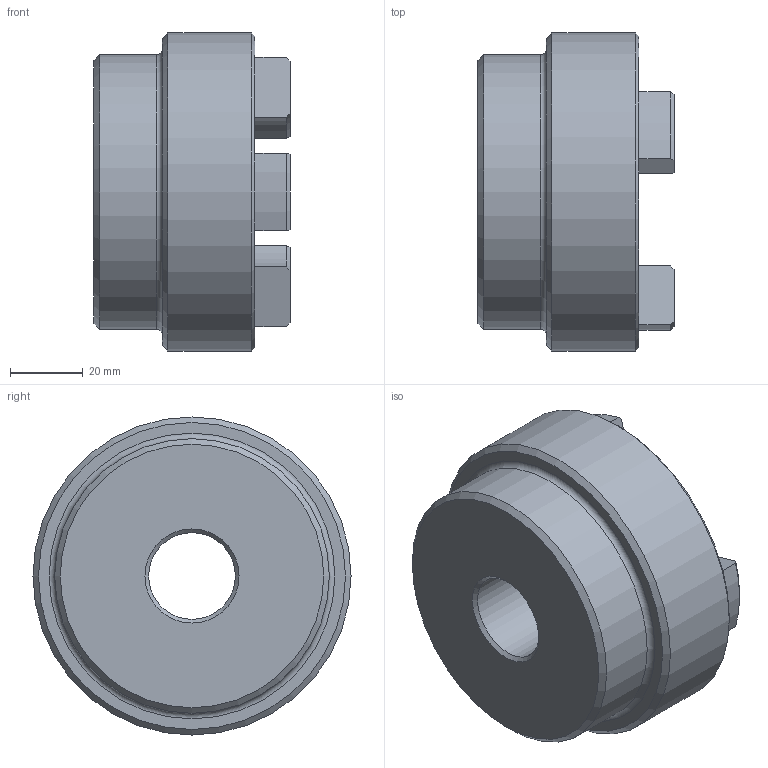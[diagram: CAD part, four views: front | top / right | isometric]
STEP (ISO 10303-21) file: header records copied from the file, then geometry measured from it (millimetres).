
FILE_DESCRIPTION (( 'STEP AP203' ), '1' );
FILE_NAME ('RC3.step', '2024-07-24T12:58:24', ( 'Adlan' ), ( '' ), 'SwSTEP 2.0', 'SolidWorks 2013', '' );
FILE_SCHEMA (( 'CONFIG_CONTROL_DESIGN' ));
Length unit declared in the file: inch
Products named in the file (1): RC3
Bounding box: 53.85 x 87.38 x 87.38 mm (x, y, z)
Volume: 182003.1 mm3; surface area: 29650.4 mm2
Topology: 1 solids, 1 shells, 60 faces, 146 edges, 90 vertices
Faces by surface type: cylinder 24, plane 13, torus 13, cone 10
Full cylindrical faces by diameter (mm): 23.82 x1, 75.438 x1, 87.376 x1
Entity records: 1841 total; most frequent: CARTESIAN_POINT 341, DIRECTION 324, ORIENTED_EDGE 274, EDGE_CURVE 137, AXIS2_PLACEMENT_3D 132, VERTEX_POINT 89, EDGE_LOOP 72, CIRCLE 71
